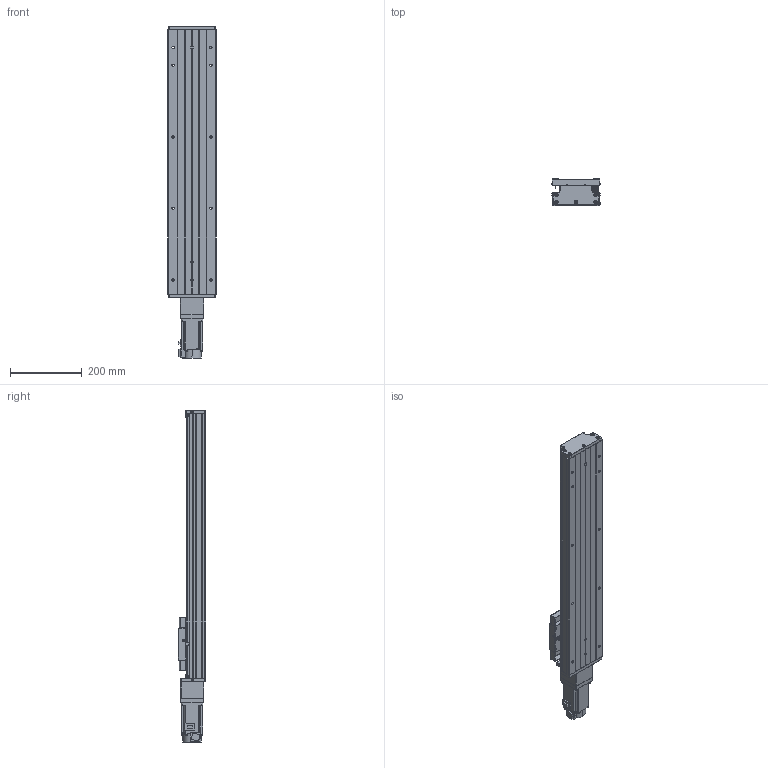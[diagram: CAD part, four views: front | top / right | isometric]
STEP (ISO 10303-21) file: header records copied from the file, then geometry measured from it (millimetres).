
FILE_DESCRIPTION (( 'STEP AP203' ), '1' );
FILE_NAME ('CTH130-550-BC-M40-C4.step', '2023-06-30T02:33:42', ( '微软用户' ), ( '微软中国' ), 'SwSTEP 2.0', 'SolidWorks 2020', '' );
FILE_SCHEMA (( 'CONFIG_CONTROL_DESIGN' ));
Length unit declared in the file: millimetre
Products named in the file (21): GTH14-001_550; CTHA60-017; す晦芛蹟隊 M3℅5; CTH130-002_GTH14-002; EE_SX911P_R; CTHA86-006-1_M40; GB T308.1-2013-6.35; CTHA60-016; CTHA86-013; CTHA86-027-1; GTH14-004; GBT 70.1-M3℅5; GBT 70.3-M3℅8; GTH14-005; GBT77-2000 M3×3; HG-KN43J-S100; GB1155-6X6; CTH130-031; CTH130-550-BC-M40-C4; GBT70.1 M5℅16; GBT 70.2-M3¡Á5_M3¡Á6
Assembly tree (59 placements, depth 2):
  CTH130-550-BC-M40-C4
    GTH14-001_550
    CTH130-002_GTH14-002
    GB T308.1-2013-6.35  x2
    GTH14-004
    GTH14-005
    GB1155-6X6  x2
    GBT70.1 M5℅16  x10
    CTHA60-017  x3
    EE_SX911P_R  x3
    CTHA60-016  x2
    GBT 70.1-M3℅5  x6
    GBT77-2000 M3×3  x6
    CTH130-031
    GBT 70.2-M3¡Á5_M3¡Á6  x8
    す晦芛蹟隊 M3℅5  x6
    CTHA86-006-1_M40
    CTHA86-013
    CTHA86-027-1
    GBT 70.3-M3℅8  x2
    HG-KN43J-S100
Bounding box: 135 x 76 x 928.7 mm (x, y, z)
Volume: 4484299.6 mm3; surface area: 723580.4 mm2
Topology: 62 solids, 62 shells, 2380 faces, 5681 edges, 3519 vertices
Faces by surface type: plane 1303, cylinder 626, cone 287, torus 120, sphere 24, bspline 20
Entity records: 43680 total; most frequent: CARTESIAN_POINT 9805, DIRECTION 6331, ORIENTED_EDGE 6262, EDGE_CURVE 3131, AXIS2_PLACEMENT_3D 2141, VECTOR 2049, LINE 2049, VERTEX_POINT 1979
